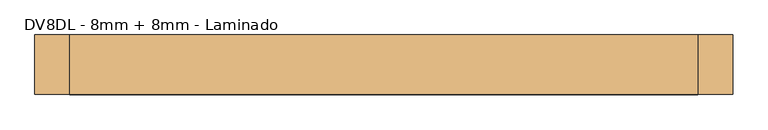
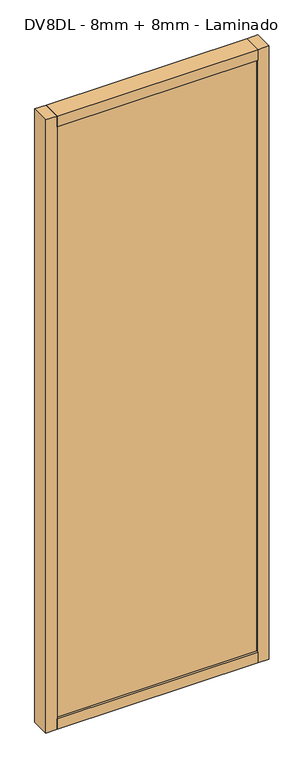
"""IFC4 building model written with IfcOpenShell, lengths in millimetres: door geometry, Mobiliário_Mobiliário de Escritório_Painel Vidro Duplo - DVDT, DVDL e DVXL (Completo)_Marelli : DV8DL - 8mm + 8mm - Laminado."""

from ifc_helpers import new_model, si_unit, frame, origin, origin_with_axes, place, context, project, spatial, polyline, outline, extrude, source, transform, mapped, element, save


def dv8dl_8mm_8mm_laminado_d276babe(model_context):
    return source(origin(), model_context, "Body", "SweptSolid", [
        extrude(outline(polyline([(450.0, 42.5), (450.0, -42.5), (-450.0, -42.5), (-450.0, 42.5), (450.0, 42.5)])), origin_with_axes(), (0.0, 0.0, 1.0), 50.0),
        extrude(outline(polyline([(450.0, 42.5), (450.0, -42.5), (-450.0, -42.5), (-450.0, 42.5), (450.0, 42.5)])), frame((0.0, 0.0, 2850.0), z_axis=(0.0, 0.0, 1.0), x_axis=(1.0, 0.0, 0.0)), (0.0, 0.0, 1.0), 50.0),
        extrude(outline(polyline([(-500.0, -42.5), (-500.0, 42.5), (-450.0, 42.5), (-450.0, -42.5), (-500.0, -42.5)])), origin_with_axes(), (0.0, 0.0, 1.0), 2900.0),
        extrude(outline(polyline([(500.0, -42.5), (450.0, -42.5), (450.0, 42.5), (500.0, 42.5), (500.0, -42.5)])), origin_with_axes(), (0.0, 0.0, 1.0), 2900.0),
        extrude(outline(polyline([(450.0, 33.1), (450.0, 25.1), (-450.0, 25.1), (-450.0, 33.1), (450.0, 33.1)])), frame((0.0, 0.0, 50.0), z_axis=(0.0, 0.0, 1.0), x_axis=(1.0, 0.0, 0.0)), (0.0, 0.0, 1.0), 2800.0),
        extrude(outline(polyline([(450.0, -33.1), (-450.0, -33.1), (-450.0, -25.1), (450.0, -25.1), (450.0, -33.1)])), frame((0.0, 0.0, 50.0), z_axis=(0.0, 0.0, 1.0), x_axis=(1.0, 0.0, 0.0)), (0.0, 0.0, 1.0), 2800.0),
    ])


if __name__ == "__main__":
    model = new_model("IFC4")
    model_context = context("Model", 3, world=origin())
    ifc_project = project(units=[si_unit("LENGTHUNIT", "METRE", prefix="MILLI")], contexts=[model_context])
    site = spatial("IfcSite", under=ifc_project)
    building = spatial("IfcBuilding", under=site)
    placement = place(None, origin())
    dv8dl_8mm_8mm_laminado_shape = dv8dl_8mm_8mm_laminado_d276babe(model_context)
    element("IfcDoor", 1, ObjectType="Mobiliário_Mobiliário de Escritório_Painel Vidro Duplo - DVDT, DVDL e DVXL (Completo)_Marelli : DV8DL - 8mm + 8mm - Laminado", at=placement, inside=building, context=model_context, shape_type="MappedRepresentation", body=[
        mapped(dv8dl_8mm_8mm_laminado_shape, transform((0.0, 0.0, 0.0), x_axis=(1.0, 0.0, 0.0), y_axis=(0.0, 1.0, 0.0), z_axis=(0.0, 0.0, 1.0))),
    ])
    save(model, "model.ifc")
